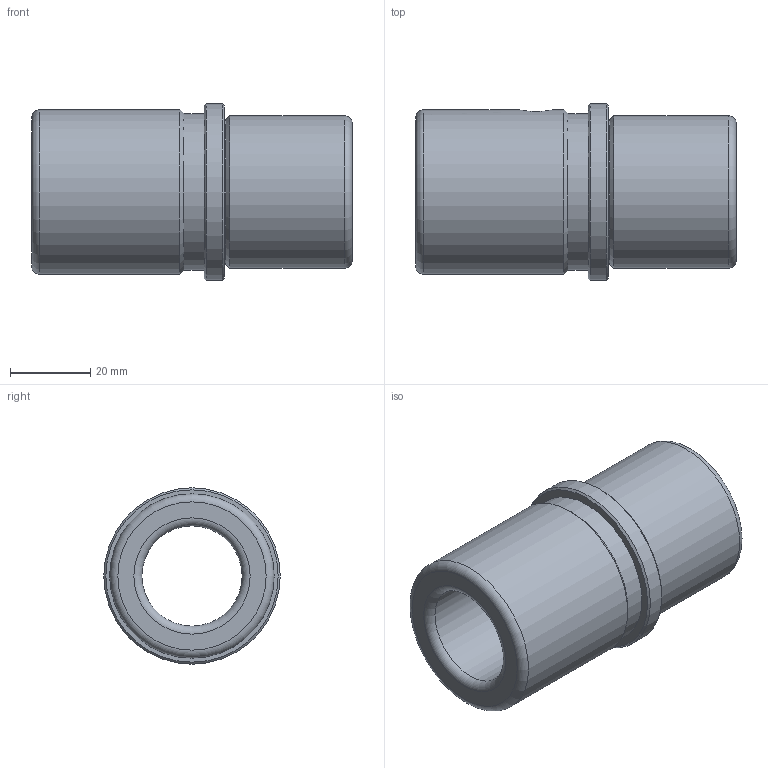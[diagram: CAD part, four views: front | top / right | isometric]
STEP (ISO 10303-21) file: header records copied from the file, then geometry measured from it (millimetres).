
FILE_DESCRIPTION( ( 'STEP AP214' ), '1' );
FILE_NAME( 'p:/temp/worker_129/temp/exporttempdir_3476_446_8uCN9/format_0/WZ - 4051 25 x 80.stp', '2020-06-16T13:21:34', ( 'License CC BY-ND 4.0' ), ( 'CADENAS' ), ' ', 'PARTsolutions', ' ' );
FILE_SCHEMA( ( 'AUTOMOTIVE_DESIGN { 1 0 10303 214 1 1 1 1 }' ) );
Length unit declared in the file: millimetre
Products named in the file (1): _WZ - 4051 25 x 80
Bounding box: 80 x 44 x 44 mm (x, y, z)
Volume: 59542.1 mm3; surface area: 18532.6 mm2
Topology: 1 solids, 1 shells, 21 faces, 38 edges, 22 vertices
Faces by surface type: cylinder 7, cone 5, plane 5, torus 4
Full cylindrical faces by diameter (mm): 8.376 x1, 25 x1, 36 x1, 38 x1, 39 x1, 41 x1, 44 x1
Entity records: 748 total; most frequent: CARTESIAN_POINT 194, DIRECTION 84, EDGE_LOOP 44, ORIENTED_EDGE 44, AXIS2_PLACEMENT_3D 42, FACE_OUTER_BOUND 32, EDGE_CURVE 22, VERTEX_POINT 22
